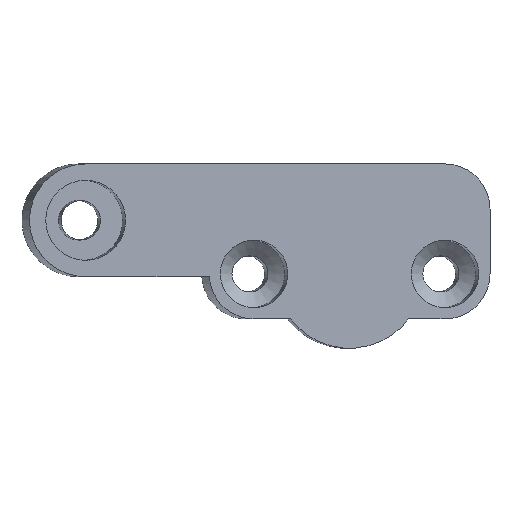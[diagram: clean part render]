
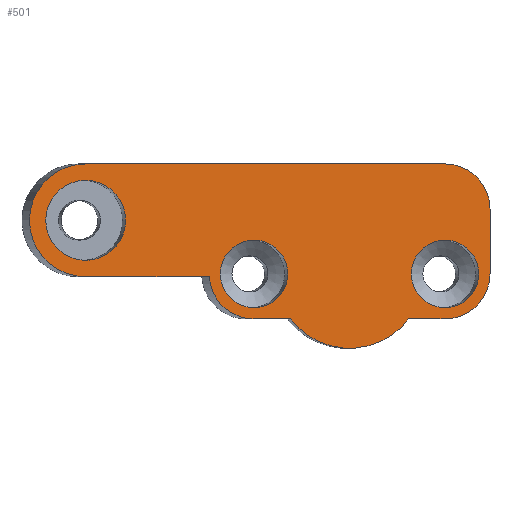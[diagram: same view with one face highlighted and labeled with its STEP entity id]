
A CAD part, left-side view. The second image highlights one B-rep face of the part: STEP entity #501.
In plain terms, the highlighted planar face has unit normal (-0.996, -0.087, 0).
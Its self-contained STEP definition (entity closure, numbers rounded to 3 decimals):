
#53=FACE_BOUND('',#89,.T.);
#54=FACE_BOUND('',#90,.T.);
#55=FACE_BOUND('',#91,.T.);
#59=FACE_OUTER_BOUND('',#88,.T.);
#88=EDGE_LOOP('',(#338,#339,#340,#341,#342,#343,#344,#345,#346,#347));
#89=EDGE_LOOP('',(#348));
#90=EDGE_LOOP('',(#349));
#91=EDGE_LOOP('',(#350));
#123=LINE('',#770,#152);
#124=LINE('',#774,#153);
#125=LINE('',#778,#154);
#126=LINE('',#782,#155);
#127=LINE('',#785,#156);
#152=VECTOR('',#613,10.);
#153=VECTOR('',#616,10.);
#154=VECTOR('',#619,10.);
#155=VECTOR('',#622,10.);
#156=VECTOR('',#625,10.);
#181=CIRCLE('',#545,4.);
#182=CIRCLE('',#546,5.);
#183=CIRCLE('',#547,4.);
#184=CIRCLE('',#548,6.6);
#185=CIRCLE('',#549,4.);
#186=CIRCLE('',#550,3.55);
#187=CIRCLE('',#551,3.);
#188=CIRCLE('',#552,3.);
#211=VERTEX_POINT('',#766);
#212=VERTEX_POINT('',#767);
#213=VERTEX_POINT('',#769);
#214=VERTEX_POINT('',#771);
#215=VERTEX_POINT('',#773);
#216=VERTEX_POINT('',#775);
#217=VERTEX_POINT('',#777);
#218=VERTEX_POINT('',#779);
#219=VERTEX_POINT('',#781);
#220=VERTEX_POINT('',#783);
#221=VERTEX_POINT('',#786);
#222=VERTEX_POINT('',#788);
#223=VERTEX_POINT('',#790);
#261=EDGE_CURVE('',#211,#212,#181,.T.);
#262=EDGE_CURVE('',#212,#213,#123,.T.);
#263=EDGE_CURVE('',#213,#214,#182,.T.);
#264=EDGE_CURVE('',#214,#215,#124,.T.);
#265=EDGE_CURVE('',#215,#216,#183,.T.);
#266=EDGE_CURVE('',#216,#217,#125,.T.);
#267=EDGE_CURVE('',#217,#218,#184,.T.);
#268=EDGE_CURVE('',#218,#219,#126,.T.);
#269=EDGE_CURVE('',#219,#220,#185,.T.);
#270=EDGE_CURVE('',#220,#211,#127,.T.);
#271=EDGE_CURVE('',#221,#221,#186,.T.);
#272=EDGE_CURVE('',#222,#222,#187,.T.);
#273=EDGE_CURVE('',#223,#223,#188,.T.);
#338=ORIENTED_EDGE('',*,*,#261,.T.);
#339=ORIENTED_EDGE('',*,*,#262,.T.);
#340=ORIENTED_EDGE('',*,*,#263,.T.);
#341=ORIENTED_EDGE('',*,*,#264,.T.);
#342=ORIENTED_EDGE('',*,*,#265,.T.);
#343=ORIENTED_EDGE('',*,*,#266,.T.);
#344=ORIENTED_EDGE('',*,*,#267,.T.);
#345=ORIENTED_EDGE('',*,*,#268,.T.);
#346=ORIENTED_EDGE('',*,*,#269,.T.);
#347=ORIENTED_EDGE('',*,*,#270,.T.);
#348=ORIENTED_EDGE('',*,*,#271,.T.);
#349=ORIENTED_EDGE('',*,*,#272,.T.);
#350=ORIENTED_EDGE('',*,*,#273,.T.);
#492=PLANE('',#544);
#501=ADVANCED_FACE('',(#59,#53,#54,#55),#492,.T.);
#544=AXIS2_PLACEMENT_3D('',#765,#609,#610);
#545=AXIS2_PLACEMENT_3D('',#768,#611,#612);
#546=AXIS2_PLACEMENT_3D('',#772,#614,#615);
#547=AXIS2_PLACEMENT_3D('',#776,#617,#618);
#548=AXIS2_PLACEMENT_3D('',#780,#620,#621);
#549=AXIS2_PLACEMENT_3D('',#784,#623,#624);
#550=AXIS2_PLACEMENT_3D('',#787,#626,#627);
#551=AXIS2_PLACEMENT_3D('',#789,#628,#629);
#552=AXIS2_PLACEMENT_3D('',#791,#630,#631);
#609=DIRECTION('center_axis',(-0.996,-0.087,0.));
#610=DIRECTION('ref_axis',(0.087,-0.996,0.));
#611=DIRECTION('center_axis',(-0.996,-0.087,0.));
#612=DIRECTION('ref_axis',(0.062,-0.704,0.707));
#613=DIRECTION('',(-0.087,0.996,0.));
#614=DIRECTION('center_axis',(-0.996,-0.087,0.));
#615=DIRECTION('ref_axis',(0.,0.,1.));
#616=DIRECTION('',(0.087,-0.996,0.));
#617=DIRECTION('center_axis',(-0.996,-0.087,0.));
#618=DIRECTION('ref_axis',(-0.062,0.704,-0.707));
#619=DIRECTION('',(0.087,-0.996,0.));
#620=DIRECTION('center_axis',(-0.996,-0.087,0.));
#621=DIRECTION('ref_axis',(-0.087,0.996,0.));
#622=DIRECTION('',(0.087,-0.996,0.));
#623=DIRECTION('center_axis',(-0.996,-0.087,0.));
#624=DIRECTION('ref_axis',(0.062,-0.704,-0.707));
#625=DIRECTION('',(0.,0.,1.));
#626=DIRECTION('center_axis',(0.996,0.087,0.));
#627=DIRECTION('ref_axis',(0.087,-0.996,0.));
#628=DIRECTION('center_axis',(0.996,0.087,0.));
#629=DIRECTION('ref_axis',(0.087,-0.996,0.));
#630=DIRECTION('center_axis',(0.996,0.087,0.));
#631=DIRECTION('ref_axis',(-0.087,0.996,0.));
#765=CARTESIAN_POINT('Origin',(-10.247,8.855,65.));
#766=CARTESIAN_POINT('',(-8.311,-13.275,70.75));
#767=CARTESIAN_POINT('',(-8.659,-9.29,74.75));
#768=CARTESIAN_POINT('Origin',(-8.659,-9.29,70.75));
#769=CARTESIAN_POINT('',(-11.448,22.588,74.75));
#770=CARTESIAN_POINT('',(-10.847,15.721,74.75));
#771=CARTESIAN_POINT('',(-11.448,22.588,64.75));
#772=CARTESIAN_POINT('Origin',(-11.448,22.588,69.75));
#773=CARTESIAN_POINT('',(-10.489,11.622,64.75));
#774=CARTESIAN_POINT('',(-10.716,14.223,64.75));
#775=CARTESIAN_POINT('',(-10.141,7.645,61.));
#776=CARTESIAN_POINT('Origin',(-10.141,7.645,65.));
#777=CARTESIAN_POINT('',(-9.858,4.407,61.));
#778=CARTESIAN_POINT('',(-9.521,0.565,61.));
#779=CARTESIAN_POINT('',(-8.943,-6.052,61.));
#780=CARTESIAN_POINT('Origin',(-9.4,-0.822,65.));
#781=CARTESIAN_POINT('',(-8.659,-9.29,61.));
#782=CARTESIAN_POINT('',(-10.125,7.467,61.));
#783=CARTESIAN_POINT('',(-8.311,-13.275,65.));
#784=CARTESIAN_POINT('Origin',(-8.659,-9.29,65.));
#785=CARTESIAN_POINT('',(-8.311,-13.275,69.));
#786=CARTESIAN_POINT('',(-11.758,26.125,69.75));
#787=CARTESIAN_POINT('Origin',(-11.448,22.588,69.75));
#788=CARTESIAN_POINT('',(-10.402,10.634,65.));
#789=CARTESIAN_POINT('Origin',(-10.141,7.645,65.));
#790=CARTESIAN_POINT('',(-8.398,-12.279,65.));
#791=CARTESIAN_POINT('Origin',(-8.659,-9.29,65.));
